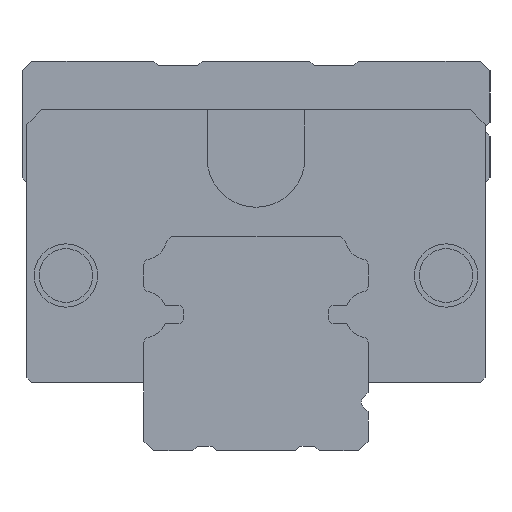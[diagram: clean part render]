
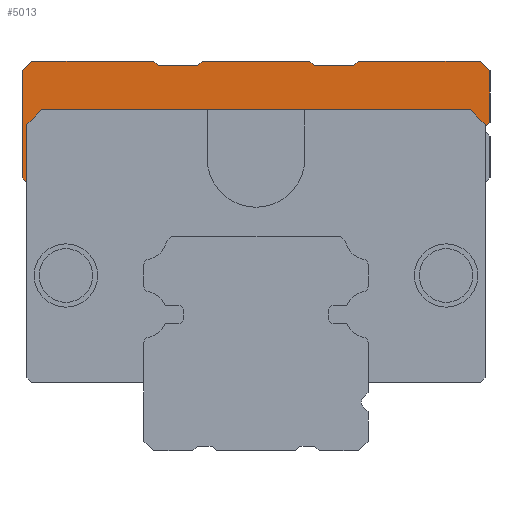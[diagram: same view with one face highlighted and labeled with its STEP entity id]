
A CAD part, left-side view. The second image highlights one B-rep face of the part: STEP entity #5013.
In plain terms, the highlighted planar face has unit normal (-1, 0, 0).
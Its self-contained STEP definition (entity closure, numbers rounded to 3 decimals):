
#4837=CARTESIAN_POINT('',(165.199,-0.042,23.442));
#4838=DIRECTION('',(1.0,0.0,0.0));
#4839=DIRECTION('',(0.0,0.0,-1.0));
#4840=AXIS2_PLACEMENT_3D('',#4837,#4838,#4839);
#4841=PLANE('',#4840);
#4842=CARTESIAN_POINT('',(165.199,23.5,33.5));
#4843=VERTEX_POINT('',#4842);
#4844=CARTESIAN_POINT('',(165.199,23.5,27.5));
#4845=VERTEX_POINT('',#4844);
#4846=CARTESIAN_POINT('',(165.199,23.5,33.5));
#4847=DIRECTION('',(0.0,0.0,-1.0));
#4848=VECTOR('',#4847,6.0);
#4849=LINE('',#4846,#4848);
#4850=EDGE_CURVE('',#4843,#4845,#4849,.T.);
#4851=ORIENTED_EDGE('',*,*,#4850,.F.);
#4852=CARTESIAN_POINT('',(165.199,22.0,35.0));
#4853=VERTEX_POINT('',#4852);
#4854=CARTESIAN_POINT('',(165.199,22.0,35.0));
#4855=DIRECTION('',(0.0,0.707,-0.707));
#4856=VECTOR('',#4855,2.121);
#4857=LINE('',#4854,#4856);
#4858=EDGE_CURVE('',#4853,#4843,#4857,.T.);
#4859=ORIENTED_EDGE('',*,*,#4858,.F.);
#4860=CARTESIAN_POINT('',(165.199,-22.0,35.0));
#4861=VERTEX_POINT('',#4860);
#4862=CARTESIAN_POINT('',(165.199,-22.0,35.0));
#4863=DIRECTION('',(0.0,1.0,0.0));
#4864=VECTOR('',#4863,44.0);
#4865=LINE('',#4862,#4864);
#4866=EDGE_CURVE('',#4861,#4853,#4865,.T.);
#4867=ORIENTED_EDGE('',*,*,#4866,.F.);
#4868=CARTESIAN_POINT('',(165.199,-23.5,33.5));
#4869=VERTEX_POINT('',#4868);
#4870=CARTESIAN_POINT('',(165.199,-23.5,33.5));
#4871=DIRECTION('',(0.0,0.707,0.707));
#4872=VECTOR('',#4871,2.121);
#4873=LINE('',#4870,#4872);
#4874=EDGE_CURVE('',#4869,#4861,#4873,.T.);
#4875=ORIENTED_EDGE('',*,*,#4874,.F.);
#4876=CARTESIAN_POINT('',(165.199,-23.5,33.004));
#4877=VERTEX_POINT('',#4876);
#4878=CARTESIAN_POINT('',(165.199,-23.5,33.004));
#4879=DIRECTION('',(0.0,0.0,1.0));
#4880=VECTOR('',#4879,0.496);
#4881=LINE('',#4878,#4880);
#4882=EDGE_CURVE('',#4877,#4869,#4881,.T.);
#4883=ORIENTED_EDGE('',*,*,#4882,.F.);
#4884=CARTESIAN_POINT('',(165.199,-23.646,33.354));
#4885=VERTEX_POINT('',#4884);
#4886=CARTESIAN_POINT('',(165.199,-24.,33.));
#4887=DIRECTION('',(-1.0,0.0,0.0));
#4888=DIRECTION('',(0.0,-0.707,0.707));
#4889=AXIS2_PLACEMENT_3D('',#4886,#4887,#4888);
#4890=CIRCLE('',#4889,0.5);
#4891=EDGE_CURVE('',#4885,#4877,#4890,.T.);
#4892=ORIENTED_EDGE('',*,*,#4891,.F.);
#4893=CARTESIAN_POINT('',(165.199,-24.,33.707));
#4894=VERTEX_POINT('',#4893);
#4895=CARTESIAN_POINT('',(165.199,-24.,33.707));
#4896=DIRECTION('',(0.0,0.707,-0.707));
#4897=VECTOR('',#4896,0.5);
#4898=LINE('',#4895,#4897);
#4899=EDGE_CURVE('',#4894,#4885,#4898,.T.);
#4900=ORIENTED_EDGE('',*,*,#4899,.F.);
#4901=CARTESIAN_POINT('',(165.199,-24.,39.0));
#4902=VERTEX_POINT('',#4901);
#4903=CARTESIAN_POINT('',(165.199,-24.,39.0));
#4904=DIRECTION('',(0.0,0.0,-1.0));
#4905=VECTOR('',#4904,5.293);
#4906=LINE('',#4903,#4905);
#4907=EDGE_CURVE('',#4902,#4894,#4906,.T.);
#4908=ORIENTED_EDGE('',*,*,#4907,.F.);
#4909=CARTESIAN_POINT('',(165.199,-23.,40.0));
#4910=VERTEX_POINT('',#4909);
#4911=CARTESIAN_POINT('',(165.199,-23.,40.0));
#4912=DIRECTION('',(0.0,-0.707,-0.707));
#4913=VECTOR('',#4912,1.414);
#4914=LINE('',#4911,#4913);
#4915=EDGE_CURVE('',#4910,#4902,#4914,.T.);
#4916=ORIENTED_EDGE('',*,*,#4915,.F.);
#4917=CARTESIAN_POINT('',(165.199,-10.5,40.0));
#4918=VERTEX_POINT('',#4917);
#4919=CARTESIAN_POINT('',(165.199,-10.5,40.0));
#4920=DIRECTION('',(0.0,-1.0,0.0));
#4921=VECTOR('',#4920,12.5);
#4922=LINE('',#4919,#4921);
#4923=EDGE_CURVE('',#4918,#4910,#4922,.T.);
#4924=ORIENTED_EDGE('',*,*,#4923,.F.);
#4925=CARTESIAN_POINT('',(165.199,-10.0,39.5));
#4926=VERTEX_POINT('',#4925);
#4927=CARTESIAN_POINT('',(165.199,-10.0,39.5));
#4928=DIRECTION('',(0.0,-0.707,0.707));
#4929=VECTOR('',#4928,0.707);
#4930=LINE('',#4927,#4929);
#4931=EDGE_CURVE('',#4926,#4918,#4930,.T.);
#4932=ORIENTED_EDGE('',*,*,#4931,.F.);
#4933=CARTESIAN_POINT('',(165.199,-6.,39.5));
#4934=VERTEX_POINT('',#4933);
#4935=CARTESIAN_POINT('',(165.199,-6.,39.5));
#4936=DIRECTION('',(0.0,-1.0,0.0));
#4937=VECTOR('',#4936,4.);
#4938=LINE('',#4935,#4937);
#4939=EDGE_CURVE('',#4934,#4926,#4938,.T.);
#4940=ORIENTED_EDGE('',*,*,#4939,.F.);
#4941=CARTESIAN_POINT('',(165.199,-5.5,40.0));
#4942=VERTEX_POINT('',#4941);
#4943=CARTESIAN_POINT('',(165.199,-5.5,40.0));
#4944=DIRECTION('',(0.0,-0.707,-0.707));
#4945=VECTOR('',#4944,0.707);
#4946=LINE('',#4943,#4945);
#4947=EDGE_CURVE('',#4942,#4934,#4946,.T.);
#4948=ORIENTED_EDGE('',*,*,#4947,.F.);
#4949=CARTESIAN_POINT('',(165.199,5.5,40.0));
#4950=VERTEX_POINT('',#4949);
#4951=CARTESIAN_POINT('',(165.199,5.5,40.0));
#4952=DIRECTION('',(0.0,-1.0,0.0));
#4953=VECTOR('',#4952,11.0);
#4954=LINE('',#4951,#4953);
#4955=EDGE_CURVE('',#4950,#4942,#4954,.T.);
#4956=ORIENTED_EDGE('',*,*,#4955,.F.);
#4957=CARTESIAN_POINT('',(165.199,6.,39.5));
#4958=VERTEX_POINT('',#4957);
#4959=CARTESIAN_POINT('',(165.199,6.,39.5));
#4960=DIRECTION('',(0.0,-0.707,0.707));
#4961=VECTOR('',#4960,0.707);
#4962=LINE('',#4959,#4961);
#4963=EDGE_CURVE('',#4958,#4950,#4962,.T.);
#4964=ORIENTED_EDGE('',*,*,#4963,.F.);
#4965=CARTESIAN_POINT('',(165.199,10.0,39.5));
#4966=VERTEX_POINT('',#4965);
#4967=CARTESIAN_POINT('',(165.199,10.0,39.5));
#4968=DIRECTION('',(0.0,-1.0,0.0));
#4969=VECTOR('',#4968,4.);
#4970=LINE('',#4967,#4969);
#4971=EDGE_CURVE('',#4966,#4958,#4970,.T.);
#4972=ORIENTED_EDGE('',*,*,#4971,.F.);
#4973=CARTESIAN_POINT('',(165.199,10.5,40.0));
#4974=VERTEX_POINT('',#4973);
#4975=CARTESIAN_POINT('',(165.199,10.5,40.0));
#4976=DIRECTION('',(0.0,-0.707,-0.707));
#4977=VECTOR('',#4976,0.707);
#4978=LINE('',#4975,#4977);
#4979=EDGE_CURVE('',#4974,#4966,#4978,.T.);
#4980=ORIENTED_EDGE('',*,*,#4979,.F.);
#4981=CARTESIAN_POINT('',(165.199,23.,40.0));
#4982=VERTEX_POINT('',#4981);
#4983=CARTESIAN_POINT('',(165.199,23.,40.0));
#4984=DIRECTION('',(0.0,-1.0,0.0));
#4985=VECTOR('',#4984,12.5);
#4986=LINE('',#4983,#4985);
#4987=EDGE_CURVE('',#4982,#4974,#4986,.T.);
#4988=ORIENTED_EDGE('',*,*,#4987,.F.);
#4989=CARTESIAN_POINT('',(165.199,24.,39.0));
#4990=VERTEX_POINT('',#4989);
#4991=CARTESIAN_POINT('',(165.199,24.,39.0));
#4992=DIRECTION('',(0.0,-0.707,0.707));
#4993=VECTOR('',#4992,1.414);
#4994=LINE('',#4991,#4993);
#4995=EDGE_CURVE('',#4990,#4982,#4994,.T.);
#4996=ORIENTED_EDGE('',*,*,#4995,.F.);
#4997=CARTESIAN_POINT('',(165.199,24.,28.));
#4998=VERTEX_POINT('',#4997);
#4999=CARTESIAN_POINT('',(165.199,24.,28.));
#5000=DIRECTION('',(0.0,0.0,1.0));
#5001=VECTOR('',#5000,11.);
#5002=LINE('',#4999,#5001);
#5003=EDGE_CURVE('',#4998,#4990,#5002,.T.);
#5004=ORIENTED_EDGE('',*,*,#5003,.F.);
#5005=CARTESIAN_POINT('',(165.199,23.5,27.5));
#5006=DIRECTION('',(0.0,0.707,0.707));
#5007=VECTOR('',#5006,0.707);
#5008=LINE('',#5005,#5007);
#5009=EDGE_CURVE('',#4845,#4998,#5008,.T.);
#5010=ORIENTED_EDGE('',*,*,#5009,.F.);
#5011=EDGE_LOOP('',(#4851,#4859,#4867,#4875,#4883,#4892,#4900,#4908,#4916,#4924,#4932,#4940,#4948,#4956,#4964,#4972,#4980,#4988,#4996,#5004,#5010));
#5012=FACE_OUTER_BOUND('',#5011,.T.);
#5013=ADVANCED_FACE('',(#5012),#4841,.F.);
